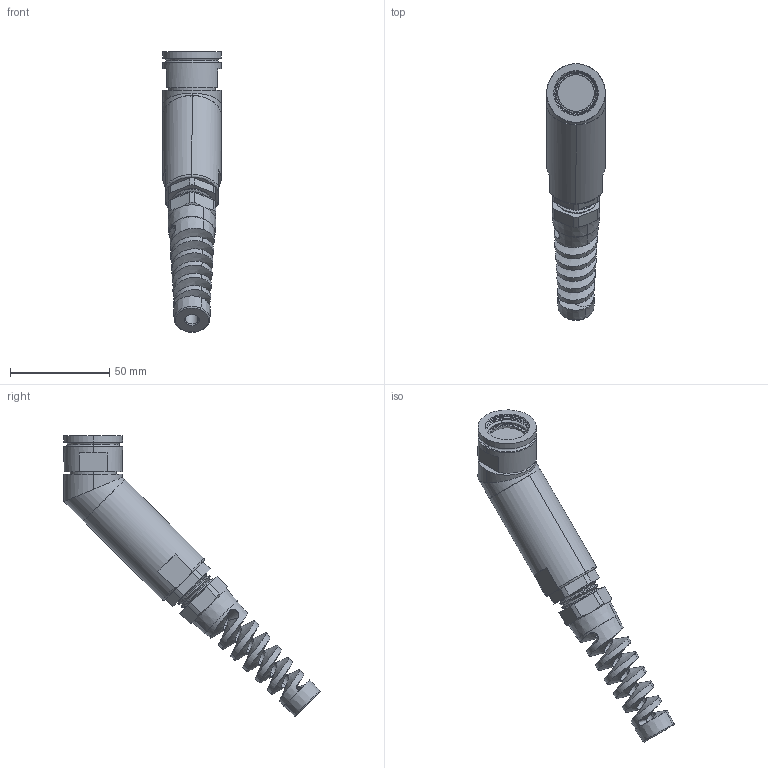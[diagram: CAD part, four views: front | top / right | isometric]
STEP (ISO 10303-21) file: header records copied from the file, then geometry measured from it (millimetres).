
FILE_DESCRIPTION (( 'STEP AP214' ), '1' );
FILE_NAME ('Q38SHELL-45X-15-XXXX-GB.STEP', '2025-09-25T20:50:37', ( '' ), ( '' ), 'SwSTEP 2.0', 'SolidWorks 2024', '' );
FILE_SCHEMA (( 'AUTOMOTIVE_DESIGN' ));
Length unit declared in the file: millimetre
Products named in the file (1): Q38SHELL-45X-15-XXXX-GB
Bounding box: 29.54 x 129.17 x 141.42 mm (x, y, z)
Volume: 80566.4 mm3; surface area: 21873.9 mm2
Topology: 2 solids, 3 shells, 277 faces, 870 edges, 612 vertices
Faces by surface type: plane 137, cylinder 73, cone 41, torus 13, bspline 13
Entity records: 17290 total; most frequent: CARTESIAN_POINT 10119, ORIENTED_EDGE 1736, DIRECTION 1269, EDGE_CURVE 868, VERTEX_POINT 612, AXIS2_PLACEMENT_3D 518, EDGE_LOOP 296, ADVANCED_FACE 277
